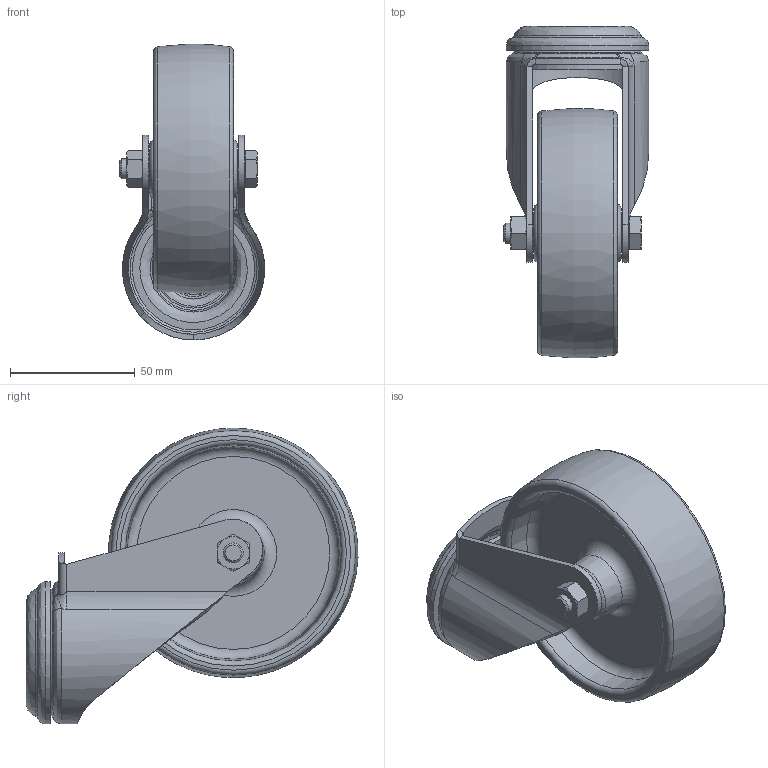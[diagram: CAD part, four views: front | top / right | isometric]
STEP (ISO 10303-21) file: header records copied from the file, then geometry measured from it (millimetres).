
FILE_DESCRIPTION (( 'STEP AP214' ), '1' );
FILE_NAME ('LKRXA-PO_101G_758418-214.step', '2013-03-06T16:10:21', ( '' ), ( '' ), 'SwSTEP 2.0', 'SolidWorks 2010', '' );
FILE_SCHEMA (( 'AUTOMOTIVE_DESIGN' ));
Length unit declared in the file: millimetre
Products named in the file (5): GH-LKRXA_100-13_G15; AM_LKPXA_8x40,5x2,25_D12; PO_G15_PO_101_12G_595272; PO-G-R_G15_PO_101_12G_595272; LKRXA-PO_101G_758418-214
Assembly tree (4 placements, depth 3):
  LKRXA-PO_101G_758418-214
    AM_LKPXA_8x40,5x2,25_D12
    PO_G15_PO_101_12G_595272
      PO-G-R_G15_PO_101_12G_595272
    GH-LKRXA_100-13_G15
Bounding box: 58.25 x 132.96 x 118.49 mm (x, y, z)
Volume: 150664.1 mm3; surface area: 63826.8 mm2
Topology: 3 solids, 3 shells, 705 faces, 1834 edges, 1198 vertices
Faces by surface type: plane 364, bspline 270, cone 34, cylinder 26, torus 11
Full cylindrical faces by diameter (mm): 8 x3, 12 x1, 12.2 x1, 13 x2, 20.45 x1, 49 x1, 57 x1
Entity records: 48360 total; most frequent: CARTESIAN_POINT 25390, ORIENTED_EDGE 3522, DIRECTION 2182, EDGE_CURVE 1761, VERTEX_POINT 1182, VECTOR 1084, LINE 1084, EDGE_LOOP 829
